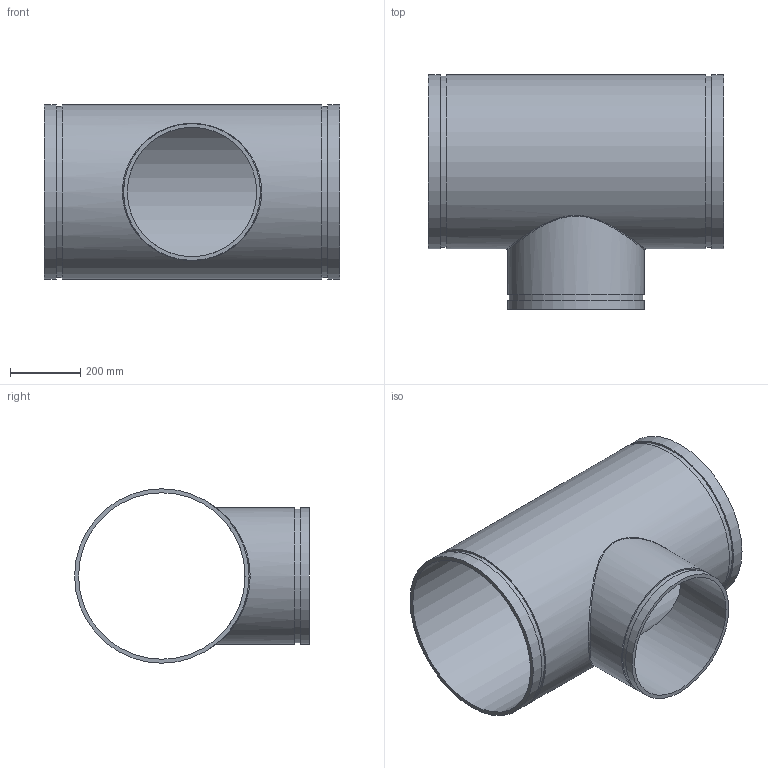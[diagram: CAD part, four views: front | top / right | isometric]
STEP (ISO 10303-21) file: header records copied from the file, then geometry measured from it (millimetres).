
FILE_DESCRIPTION(/* description */ ('VIC REDUCING TEE No 25-C','CAx-IF Rec.Pracs.---Representation and Presentation of Product Manufacturing Information (PMI)---4.0---2014-10-13'),/* implementation_level */ '2;1');
FILE_NAME(/* name */ 'C:\Users\Vjadhav\AppData\Roaming\Autodesk\ApplicationPlugins\Back Up\Victaulic_AWWA_Tee Reducing_No 25-C (DRG)\Victaulic_AWWA_Tee Reducing_No 25-C (DRG)_18.0x14.0 (450x350).stp',/* time_stamp */ '2020-08-18T18:18:31+06:00',/* author */ ('CORINNE GRAY'),/* organization */ ('Victaulic'),/* preprocessor_version */ 'ST-DEVELOPER v17.2',/* originating_system */ 'Autodesk Inventor 2019',/* authorisation */ '');
FILE_SCHEMA (('AP242_MANAGED_MODEL_BASED_3D_ENGINEERING_MIM_LF { 1 0 10303 442 1 1 4 }'));
Length unit declared in the file: inch
Products named in the file (1): 25C-18.0x14.0
Bounding box: 838.2 x 666.75 x 495.3 mm (x, y, z)
Volume: 15333887.5 mm3; surface area: 2907847.4 mm2
Topology: 1 solids, 1 shells, 20 faces, 44 edges, 33 vertices
Faces by surface type: cylinder 10, plane 9, bspline 1
Full cylindrical faces by diameter (mm): 367.284 x1, 380.213 x1, 388.62 x2, 472.948 x1, 485.775 x2, 495.3 x3
Entity records: 1111 total; most frequent: CARTESIAN_POINT 487, DIRECTION 135, ORIENTED_EDGE 90, AXIS2_PLACEMENT_3D 62, EDGE_CURVE 45, VERTEX_POINT 34, EDGE_LOOP 31, CIRCLE 29
